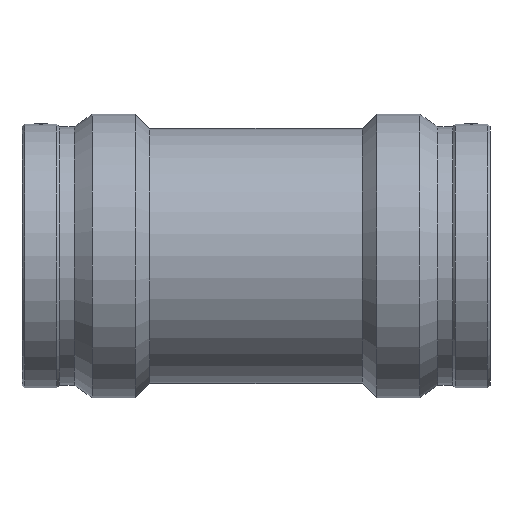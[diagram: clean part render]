
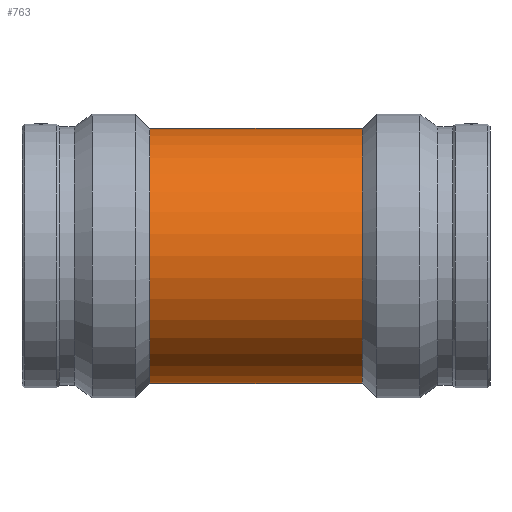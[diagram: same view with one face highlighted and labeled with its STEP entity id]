
A CAD part, top view. The second image highlights one B-rep face of the part: STEP entity #763.
In plain terms, the highlighted cylindrical face has radius 146.7 mm (diameter 293.4 mm), a full revolution.
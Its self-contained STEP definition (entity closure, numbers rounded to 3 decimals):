
#31=B_SPLINE_CURVE_WITH_KNOTS('',3,(#1275,#1276,#1277,#1278,#1279,#1280,
#1281,#1282,#1283,#1284,#1285,#1286,#1287,#1288,#1289,#1290,#1291,#1292),
 .UNSPECIFIED.,.F.,.F.,(4,2,2,2,2,2,2,2,4),(0.,1.631,3.262,
4.893,6.524,8.146,9.769,11.391,
13.014),.UNSPECIFIED.);
#32=B_SPLINE_CURVE_WITH_KNOTS('',3,(#1293,#1294,#1295,#1296,#1297,#1298,
#1299,#1300,#1301,#1302,#1303,#1304,#1305,#1306,#1307,#1308,#1309,#1310,
#1311,#1312,#1313,#1314,#1315,#1316,#1317,#1318,#1319,#1320,#1321,#1322,
#1323,#1324,#1325,#1326,#1327,#1328,#1329,#1330,#1331,#1332,#1333,#1334,
#1335,#1336,#1337,#1338,#1339,#1340,#1341,#1342),.UNSPECIFIED.,.F.,.F.,
(4,2,2,2,2,2,2,2,2,2,2,2,2,2,2,2,2,2,2,2,2,2,2,2,4),(13.014,14.636,
16.259,17.881,19.504,21.134,22.765,
24.396,26.027,27.658,29.289,30.92,
32.551,34.173,35.796,37.418,39.041,
40.663,42.286,43.908,45.531,47.162,
48.792,50.423,52.054),.UNSPECIFIED.);
#45=FACE_BOUND('',#142,.T.);
#88=FACE_OUTER_BOUND('',#141,.T.);
#141=EDGE_LOOP('',(#599,#600,#601,#602,#603,#604));
#142=EDGE_LOOP('',(#605,#606));
#183=LINE('',#1515,#216);
#216=VECTOR('',#1059,146.7);
#264=CIRCLE('',#859,146.7);
#265=CIRCLE('',#860,146.7);
#266=CIRCLE('',#862,146.7);
#267=CIRCLE('',#863,146.7);
#311=VERTEX_POINT('',#1273);
#312=VERTEX_POINT('',#1274);
#343=VERTEX_POINT('',#1505);
#344=VERTEX_POINT('',#1506);
#345=VERTEX_POINT('',#1511);
#346=VERTEX_POINT('',#1512);
#392=EDGE_CURVE('',#311,#312,#31,.T.);
#393=EDGE_CURVE('',#312,#311,#32,.T.);
#437=EDGE_CURVE('',#343,#344,#264,.T.);
#438=EDGE_CURVE('',#344,#343,#265,.T.);
#440=EDGE_CURVE('',#345,#346,#266,.T.);
#441=EDGE_CURVE('',#346,#345,#267,.T.);
#442=EDGE_CURVE('',#346,#344,#183,.T.);
#599=ORIENTED_EDGE('',*,*,#440,.F.);
#600=ORIENTED_EDGE('',*,*,#441,.F.);
#601=ORIENTED_EDGE('',*,*,#442,.T.);
#602=ORIENTED_EDGE('',*,*,#438,.T.);
#603=ORIENTED_EDGE('',*,*,#437,.T.);
#604=ORIENTED_EDGE('',*,*,#442,.F.);
#605=ORIENTED_EDGE('',*,*,#392,.T.);
#606=ORIENTED_EDGE('',*,*,#393,.T.);
#729=CYLINDRICAL_SURFACE('',#861,146.7);
#763=ADVANCED_FACE('',(#88,#45),#729,.T.);
#859=AXIS2_PLACEMENT_3D('',#1507,#1048,#1049);
#860=AXIS2_PLACEMENT_3D('',#1508,#1050,#1051);
#861=AXIS2_PLACEMENT_3D('',#1510,#1053,#1054);
#862=AXIS2_PLACEMENT_3D('',#1513,#1055,#1056);
#863=AXIS2_PLACEMENT_3D('',#1514,#1057,#1058);
#1048=DIRECTION('center_axis',(1.,0.,0.));
#1049=DIRECTION('ref_axis',(0.,0.,-1.));
#1050=DIRECTION('center_axis',(1.,0.,0.));
#1051=DIRECTION('ref_axis',(0.,0.,-1.));
#1053=DIRECTION('center_axis',(1.,0.,0.));
#1054=DIRECTION('ref_axis',(0.,1.,0.));
#1055=DIRECTION('center_axis',(1.,0.,0.));
#1056=DIRECTION('ref_axis',(0.,0.,-1.));
#1057=DIRECTION('center_axis',(1.,0.,0.));
#1058=DIRECTION('ref_axis',(0.,0.,-1.));
#1059=DIRECTION('',(-1.,0.,0.));
#1273=CARTESIAN_POINT('',(0.,-84.,-120.27));
#1274=CARTESIAN_POINT('',(84.,0.,-146.7));
#1275=CARTESIAN_POINT('Ctrl Pts',(0.,-84.,-120.27));
#1276=CARTESIAN_POINT('Ctrl Pts',(5.436,-84.,-120.27));
#1277=CARTESIAN_POINT('Ctrl Pts',(10.998,-83.464,-120.65));
#1278=CARTESIAN_POINT('Ctrl Pts',(21.96,-81.271,-122.138));
#1279=CARTESIAN_POINT('Ctrl Pts',(27.36,-79.615,-123.243));
#1280=CARTESIAN_POINT('Ctrl Pts',(37.649,-75.297,-125.927));
#1281=CARTESIAN_POINT('Ctrl Pts',(42.548,-72.632,-127.505));
#1282=CARTESIAN_POINT('Ctrl Pts',(51.587,-66.517,-130.799));
#1283=CARTESIAN_POINT('Ctrl Pts',(55.729,-63.065,-132.513));
#1284=CARTESIAN_POINT('Ctrl Pts',(63.047,-55.747,-135.754));
#1285=CARTESIAN_POINT('Ctrl Pts',(66.495,-51.616,-137.403));
#1286=CARTESIAN_POINT('Ctrl Pts',(72.618,-42.573,-140.468));
#1287=CARTESIAN_POINT('Ctrl Pts',(75.292,-37.662,-141.882));
#1288=CARTESIAN_POINT('Ctrl Pts',(79.621,-27.345,-144.226));
#1289=CARTESIAN_POINT('Ctrl Pts',(81.279,-21.93,-145.157));
#1290=CARTESIAN_POINT('Ctrl Pts',(83.469,-10.962,-146.394));
#1291=CARTESIAN_POINT('Ctrl Pts',(84.,-5.408,-146.7));
#1292=CARTESIAN_POINT('Ctrl Pts',(84.,0.,-146.7));
#1293=CARTESIAN_POINT('Ctrl Pts',(84.,0.,-146.7));
#1294=CARTESIAN_POINT('Ctrl Pts',(84.,5.408,-146.7));
#1295=CARTESIAN_POINT('Ctrl Pts',(83.469,10.962,-146.394));
#1296=CARTESIAN_POINT('Ctrl Pts',(81.279,21.93,-145.157));
#1297=CARTESIAN_POINT('Ctrl Pts',(79.621,27.345,-144.226));
#1298=CARTESIAN_POINT('Ctrl Pts',(75.292,37.662,-141.882));
#1299=CARTESIAN_POINT('Ctrl Pts',(72.618,42.573,-140.468));
#1300=CARTESIAN_POINT('Ctrl Pts',(66.495,51.616,-137.403));
#1301=CARTESIAN_POINT('Ctrl Pts',(63.047,55.747,-135.754));
#1302=CARTESIAN_POINT('Ctrl Pts',(55.729,63.065,-132.513));
#1303=CARTESIAN_POINT('Ctrl Pts',(51.587,66.517,-130.799));
#1304=CARTESIAN_POINT('Ctrl Pts',(42.548,72.632,-127.505));
#1305=CARTESIAN_POINT('Ctrl Pts',(37.649,75.297,-125.927));
#1306=CARTESIAN_POINT('Ctrl Pts',(27.36,79.615,-123.243));
#1307=CARTESIAN_POINT('Ctrl Pts',(21.96,81.271,-122.138));
#1308=CARTESIAN_POINT('Ctrl Pts',(10.998,83.464,-120.65));
#1309=CARTESIAN_POINT('Ctrl Pts',(5.436,84.,-120.27));
#1310=CARTESIAN_POINT('Ctrl Pts',(-5.436,84.,-120.27));
#1311=CARTESIAN_POINT('Ctrl Pts',(-10.998,83.464,-120.65));
#1312=CARTESIAN_POINT('Ctrl Pts',(-21.96,81.271,-122.138));
#1313=CARTESIAN_POINT('Ctrl Pts',(-27.36,79.615,-123.243));
#1314=CARTESIAN_POINT('Ctrl Pts',(-37.649,75.297,-125.927));
#1315=CARTESIAN_POINT('Ctrl Pts',(-42.548,72.632,-127.505));
#1316=CARTESIAN_POINT('Ctrl Pts',(-51.587,66.517,-130.799));
#1317=CARTESIAN_POINT('Ctrl Pts',(-55.729,63.065,-132.513));
#1318=CARTESIAN_POINT('Ctrl Pts',(-63.047,55.747,-135.754));
#1319=CARTESIAN_POINT('Ctrl Pts',(-66.495,51.616,-137.403));
#1320=CARTESIAN_POINT('Ctrl Pts',(-72.618,42.573,-140.468));
#1321=CARTESIAN_POINT('Ctrl Pts',(-75.292,37.662,-141.882));
#1322=CARTESIAN_POINT('Ctrl Pts',(-79.621,27.345,-144.226));
#1323=CARTESIAN_POINT('Ctrl Pts',(-81.279,21.93,-145.157));
#1324=CARTESIAN_POINT('Ctrl Pts',(-83.469,10.962,-146.394));
#1325=CARTESIAN_POINT('Ctrl Pts',(-84.,5.408,-146.7));
#1326=CARTESIAN_POINT('Ctrl Pts',(-84.,-5.408,-146.7));
#1327=CARTESIAN_POINT('Ctrl Pts',(-83.469,-10.962,-146.394));
#1328=CARTESIAN_POINT('Ctrl Pts',(-81.279,-21.93,-145.157));
#1329=CARTESIAN_POINT('Ctrl Pts',(-79.621,-27.345,-144.226));
#1330=CARTESIAN_POINT('Ctrl Pts',(-75.292,-37.662,-141.882));
#1331=CARTESIAN_POINT('Ctrl Pts',(-72.618,-42.573,-140.468));
#1332=CARTESIAN_POINT('Ctrl Pts',(-66.495,-51.616,-137.403));
#1333=CARTESIAN_POINT('Ctrl Pts',(-63.047,-55.747,-135.754));
#1334=CARTESIAN_POINT('Ctrl Pts',(-55.729,-63.065,-132.513));
#1335=CARTESIAN_POINT('Ctrl Pts',(-51.587,-66.517,-130.799));
#1336=CARTESIAN_POINT('Ctrl Pts',(-42.548,-72.632,-127.505));
#1337=CARTESIAN_POINT('Ctrl Pts',(-37.649,-75.297,-125.927));
#1338=CARTESIAN_POINT('Ctrl Pts',(-27.36,-79.615,-123.243));
#1339=CARTESIAN_POINT('Ctrl Pts',(-21.96,-81.271,-122.138));
#1340=CARTESIAN_POINT('Ctrl Pts',(-10.998,-83.464,-120.65));
#1341=CARTESIAN_POINT('Ctrl Pts',(-5.436,-84.,-120.27));
#1342=CARTESIAN_POINT('Ctrl Pts',(0.,-84.,-120.27));
#1505=CARTESIAN_POINT('',(-122.395,146.7,0.));
#1506=CARTESIAN_POINT('',(-122.395,-146.7,0.));
#1507=CARTESIAN_POINT('Origin',(-122.395,0.,0.));
#1508=CARTESIAN_POINT('Origin',(-122.395,0.,0.));
#1510=CARTESIAN_POINT('Origin',(0.,0.,0.));
#1511=CARTESIAN_POINT('',(122.395,146.7,0.));
#1512=CARTESIAN_POINT('',(122.395,-146.7,0.));
#1513=CARTESIAN_POINT('Origin',(122.395,0.,0.));
#1514=CARTESIAN_POINT('Origin',(122.395,0.,0.));
#1515=CARTESIAN_POINT('',(0.,-146.7,0.));
